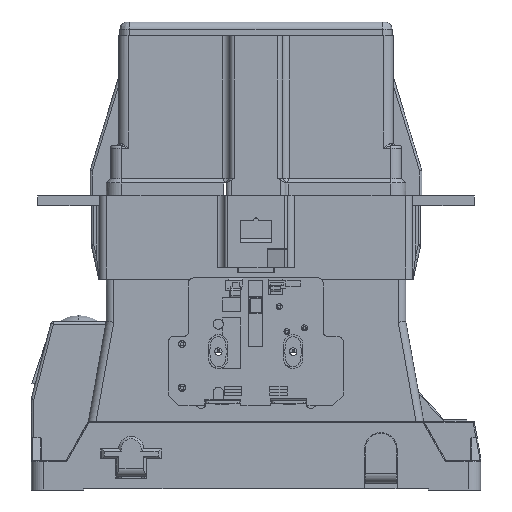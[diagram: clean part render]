
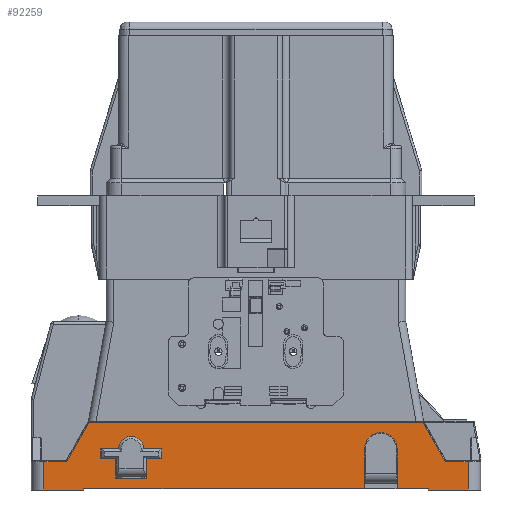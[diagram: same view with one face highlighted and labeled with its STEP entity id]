
A CAD part, left-side view. The second image highlights one B-rep face of the part: STEP entity #92259.
In plain terms, the highlighted planar face has unit normal (-1, 0, 0).
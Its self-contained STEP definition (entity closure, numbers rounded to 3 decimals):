
#5468=CARTESIAN_POINT('',(0.,40.,16.));
#5469=DIRECTION('',(-1.,0.,0.));
#5470=DIRECTION('',(0.,-1.,0.));
#5471=AXIS2_PLACEMENT_3D('',#5468,#5469,#5470);
#5473=DIRECTION('',(0.,0.,1.));
#5474=VECTOR('',#5473,16.);
#5475=CARTESIAN_POINT('',(0.,46.5,0.));
#5476=LINE('',#5475,#5474);
#5477=DIRECTION('',(0.,0.,1.));
#5478=VECTOR('',#5477,0.5);
#5479=CARTESIAN_POINT('',(0.,159.,-0.5));
#5480=LINE('',#5479,#5478);
#5481=DIRECTION('',(0.,-1.,0.));
#5482=VECTOR('',#5481,16.);
#5483=CARTESIAN_POINT('',(0.,175.,-0.5));
#5484=LINE('',#5483,#5482);
#5485=DIRECTION('',(0.,0.494,-0.869));
#5486=VECTOR('',#5485,18.06);
#5487=CARTESIAN_POINT('',(0.,156.865,26.5));
#5488=LINE('',#5487,#5486);
#5489=DIRECTION('',(0.,0.494,0.869));
#5490=VECTOR('',#5489,18.06);
#5491=CARTESIAN_POINT('',(0.,14.209,10.8));
#5492=LINE('',#5491,#5490);
#5493=DIRECTION('',(0.,0.,-1.));
#5494=VECTOR('',#5493,7.7);
#5495=CARTESIAN_POINT('',(0.,133.75,12.));
#5496=LINE('',#5495,#5494);
#5497=DIRECTION('',(0.,-1.,0.));
#5498=VECTOR('',#5497,6.);
#5499=CARTESIAN_POINT('',(0.,133.75,12.));
#5500=LINE('',#5499,#5498);
#5501=DIRECTION('',(0.,0.,1.));
#5502=VECTOR('',#5501,4.);
#5503=CARTESIAN_POINT('',(0.,127.75,12.));
#5504=LINE('',#5503,#5502);
#5505=DIRECTION('',(0.,1.,0.));
#5506=VECTOR('',#5505,7.25);
#5507=CARTESIAN_POINT('',(0.,127.75,16.));
#5508=LINE('',#5507,#5506);
#5509=CARTESIAN_POINT('',(0.,140.,16.));
#5510=DIRECTION('',(-1.,0.,0.));
#5511=DIRECTION('',(0.,-1.,0.));
#5512=AXIS2_PLACEMENT_3D('',#5509,#5510,#5511);
#5514=DIRECTION('',(0.,1.,0.));
#5515=VECTOR('',#5514,7.25);
#5516=CARTESIAN_POINT('',(0.,145.,16.));
#5517=LINE('',#5516,#5515);
#5518=DIRECTION('',(0.,0.,-1.));
#5519=VECTOR('',#5518,4.);
#5520=CARTESIAN_POINT('',(0.,152.25,16.));
#5521=LINE('',#5520,#5519);
#5522=DIRECTION('',(0.,-1.,0.));
#5523=VECTOR('',#5522,6.);
#5524=CARTESIAN_POINT('',(0.,152.25,12.));
#5525=LINE('',#5524,#5523);
#5526=DIRECTION('',(0.,1.,0.));
#5527=VECTOR('',#5526,12.5);
#5528=CARTESIAN_POINT('',(0.,133.75,4.3));
#5529=LINE('',#5528,#5527);
#5645=DIRECTION('',(0.,1.,0.));
#5646=VECTOR('',#5645,16.);
#5647=CARTESIAN_POINT('',(0.,5.,-0.5));
#5648=LINE('',#5647,#5646);
#5933=DIRECTION('',(0.,0.,-1.));
#5934=VECTOR('',#5933,7.7);
#5935=CARTESIAN_POINT('',(0.,146.25,12.));
#5936=LINE('',#5935,#5934);
#6076=DIRECTION('',(0.,1.,0.));
#6077=VECTOR('',#6076,112.5);
#6078=CARTESIAN_POINT('',(0.,46.5,0.));
#6079=LINE('',#6078,#6077);
#6088=DIRECTION('',(0.,1.,0.));
#6089=VECTOR('',#6088,12.5);
#6090=CARTESIAN_POINT('',(0.,21.,0.));
#6091=LINE('',#6090,#6089);
#6275=DIRECTION('',(0.,0.,1.));
#6276=VECTOR('',#6275,0.5);
#6277=CARTESIAN_POINT('',(0.,21.,-0.5));
#6278=LINE('',#6277,#6276);
#9109=DIRECTION('',(0.,0.,1.));
#9110=VECTOR('',#9109,16.);
#9111=CARTESIAN_POINT('',(0.,33.5,0.));
#9112=LINE('',#9111,#9110);
#11323=DIRECTION('',(0.,0.,1.));
#11324=VECTOR('',#11323,11.3);
#11325=CARTESIAN_POINT('',(0.,175.,-0.5));
#11326=LINE('',#11325,#11324);
#11351=DIRECTION('',(0.,0.,-1.));
#11352=VECTOR('',#11351,11.3);
#11353=CARTESIAN_POINT('',(0.,5.,10.8));
#11354=LINE('',#11353,#11352);
#11583=DIRECTION('',(0.,-1.,0.));
#11584=VECTOR('',#11583,133.73);
#11585=CARTESIAN_POINT('',(0.,156.865,26.5));
#11586=LINE('',#11585,#11584);
#13895=DIRECTION('',(0.,-1.,0.));
#13896=VECTOR('',#13895,9.209);
#13897=CARTESIAN_POINT('',(0.,175.,10.8));
#13898=LINE('',#13897,#13896);
#16276=DIRECTION('',(0.,-1.,0.));
#16277=VECTOR('',#16276,9.209);
#16278=CARTESIAN_POINT('',(0.,14.209,10.8));
#16279=LINE('',#16278,#16277);
#67049=CARTESIAN_POINT('',(0.,145.,16.));
#67050=CARTESIAN_POINT('',(0.,135.,16.));
#67051=VERTEX_POINT('',#67049);
#67052=VERTEX_POINT('',#67050);
#67057=CARTESIAN_POINT('',(0.,127.75,16.));
#67058=VERTEX_POINT('',#67057);
#67065=CARTESIAN_POINT('',(0.,127.75,12.));
#67066=CARTESIAN_POINT('',(0.,133.75,12.));
#67067=VERTEX_POINT('',#67065);
#67068=VERTEX_POINT('',#67066);
#67069=CARTESIAN_POINT('',(0.,146.25,12.));
#67070=CARTESIAN_POINT('',(0.,152.25,12.));
#67071=VERTEX_POINT('',#67069);
#67072=VERTEX_POINT('',#67070);
#67079=CARTESIAN_POINT('',(0.,152.25,16.));
#67080=VERTEX_POINT('',#67079);
#67081=CARTESIAN_POINT('',(0.,133.75,4.3));
#67082=VERTEX_POINT('',#67081);
#67101=CARTESIAN_POINT('',(0.,146.25,4.3));
#67102=VERTEX_POINT('',#67101);
#67206=CARTESIAN_POINT('',(0.,21.,-0.5));
#67208=VERTEX_POINT('',#67206);
#67231=CARTESIAN_POINT('',(0.,5.,-0.5));
#67232=VERTEX_POINT('',#67231);
#67439=CARTESIAN_POINT('',(0.,21.,0.));
#67440=VERTEX_POINT('',#67439);
#67441=CARTESIAN_POINT('',(0.,33.5,0.));
#67442=VERTEX_POINT('',#67441);
#67447=CARTESIAN_POINT('',(0.,46.5,0.));
#67448=VERTEX_POINT('',#67447);
#67449=CARTESIAN_POINT('',(0.,159.,0.));
#67450=VERTEX_POINT('',#67449);
#67722=CARTESIAN_POINT('',(0.,5.,10.8));
#67723=VERTEX_POINT('',#67722);
#67724=CARTESIAN_POINT('',(0.,14.209,10.8));
#67725=VERTEX_POINT('',#67724);
#67726=CARTESIAN_POINT('',(0.,23.135,26.5));
#67727=VERTEX_POINT('',#67726);
#67728=CARTESIAN_POINT('',(0.,156.865,26.5));
#67729=VERTEX_POINT('',#67728);
#67730=CARTESIAN_POINT('',(0.,165.791,10.8));
#67731=VERTEX_POINT('',#67730);
#67732=CARTESIAN_POINT('',(0.,175.,10.8));
#67733=VERTEX_POINT('',#67732);
#67734=CARTESIAN_POINT('',(0.,175.,-0.5));
#67735=VERTEX_POINT('',#67734);
#67736=CARTESIAN_POINT('',(0.,159.,-0.5));
#67737=VERTEX_POINT('',#67736);
#67738=CARTESIAN_POINT('',(0.,46.5,16.));
#67739=VERTEX_POINT('',#67738);
#67740=CARTESIAN_POINT('',(0.,33.5,16.));
#67741=VERTEX_POINT('',#67740);
#92198=CARTESIAN_POINT('',(0.,150.25,18.));
#92199=DIRECTION('',(-1.,0.,0.));
#92200=DIRECTION('',(0.,-1.,0.));
#92201=AXIS2_PLACEMENT_3D('',#92198,#92199,#92200);
#92202=PLANE('',#92201);
#92204=ORIENTED_EDGE('',*,*,#92203,.T.);
#92206=ORIENTED_EDGE('',*,*,#92205,.T.);
#92208=ORIENTED_EDGE('',*,*,#92207,.T.);
#92210=ORIENTED_EDGE('',*,*,#92209,.T.);
#92212=ORIENTED_EDGE('',*,*,#92211,.T.);
#92214=ORIENTED_EDGE('',*,*,#92213,.T.);
#92216=ORIENTED_EDGE('',*,*,#92215,.F.);
#92218=ORIENTED_EDGE('',*,*,#92217,.T.);
#92220=ORIENTED_EDGE('',*,*,#92219,.F.);
#92222=ORIENTED_EDGE('',*,*,#92221,.F.);
#92224=ORIENTED_EDGE('',*,*,#92223,.T.);
#92226=ORIENTED_EDGE('',*,*,#92225,.T.);
#92228=ORIENTED_EDGE('',*,*,#92227,.F.);
#92230=ORIENTED_EDGE('',*,*,#92229,.T.);
#92232=ORIENTED_EDGE('',*,*,#92231,.F.);
#92234=ORIENTED_EDGE('',*,*,#92233,.T.);
#92235=EDGE_LOOP('',(#92204,#92206,#92208,#92210,#92212,#92214,#92216,#92218,
#92220,#92222,#92224,#92226,#92228,#92230,#92232,#92234));
#92236=FACE_OUTER_BOUND('',#92235,.F.);
#92238=ORIENTED_EDGE('',*,*,#92237,.F.);
#92240=ORIENTED_EDGE('',*,*,#92239,.T.);
#92242=ORIENTED_EDGE('',*,*,#92241,.T.);
#92244=ORIENTED_EDGE('',*,*,#92243,.T.);
#92246=ORIENTED_EDGE('',*,*,#92245,.T.);
#92248=ORIENTED_EDGE('',*,*,#92247,.T.);
#92250=ORIENTED_EDGE('',*,*,#92249,.T.);
#92252=ORIENTED_EDGE('',*,*,#92251,.T.);
#92254=ORIENTED_EDGE('',*,*,#92253,.T.);
#92256=ORIENTED_EDGE('',*,*,#92255,.F.);
#92257=EDGE_LOOP('',(#92238,#92240,#92242,#92244,#92246,#92248,#92250,#92252,
#92254,#92256));
#92258=FACE_BOUND('',#92257,.F.);
#92259=ADVANCED_FACE('',(#92236,#92258),#92202,.T.);
#5472=CIRCLE('',#5471,6.5);
#5513=CIRCLE('',#5512,5.);
#92203=EDGE_CURVE('',#67723,#67232,#11354,.T.);
#92205=EDGE_CURVE('',#67232,#67208,#5648,.T.);
#92207=EDGE_CURVE('',#67208,#67440,#6278,.T.);
#92209=EDGE_CURVE('',#67440,#67442,#6091,.T.);
#92211=EDGE_CURVE('',#67442,#67741,#9112,.T.);
#92213=EDGE_CURVE('',#67741,#67739,#5472,.T.);
#92215=EDGE_CURVE('',#67448,#67739,#5476,.T.);
#92217=EDGE_CURVE('',#67448,#67450,#6079,.T.);
#92219=EDGE_CURVE('',#67737,#67450,#5480,.T.);
#92221=EDGE_CURVE('',#67735,#67737,#5484,.T.);
#92223=EDGE_CURVE('',#67735,#67733,#11326,.T.);
#92225=EDGE_CURVE('',#67733,#67731,#13898,.T.);
#92227=EDGE_CURVE('',#67729,#67731,#5488,.T.);
#92229=EDGE_CURVE('',#67729,#67727,#11586,.T.);
#92231=EDGE_CURVE('',#67725,#67727,#5492,.T.);
#92233=EDGE_CURVE('',#67725,#67723,#16279,.T.);
#92237=EDGE_CURVE('',#67068,#67082,#5496,.T.);
#92239=EDGE_CURVE('',#67068,#67067,#5500,.T.);
#92241=EDGE_CURVE('',#67067,#67058,#5504,.T.);
#92243=EDGE_CURVE('',#67058,#67052,#5508,.T.);
#92245=EDGE_CURVE('',#67052,#67051,#5513,.T.);
#92247=EDGE_CURVE('',#67051,#67080,#5517,.T.);
#92249=EDGE_CURVE('',#67080,#67072,#5521,.T.);
#92251=EDGE_CURVE('',#67072,#67071,#5525,.T.);
#92253=EDGE_CURVE('',#67071,#67102,#5936,.T.);
#92255=EDGE_CURVE('',#67082,#67102,#5529,.T.);
